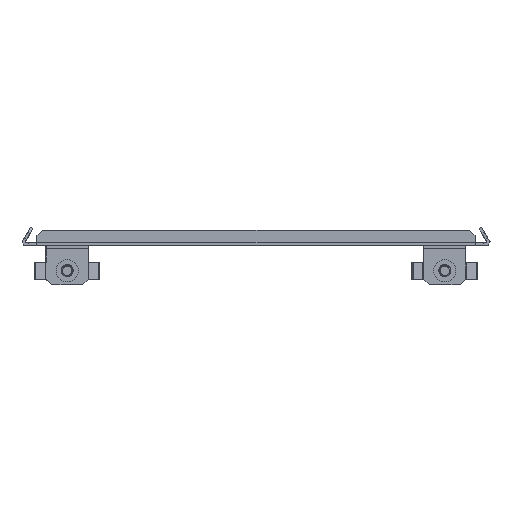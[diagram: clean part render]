
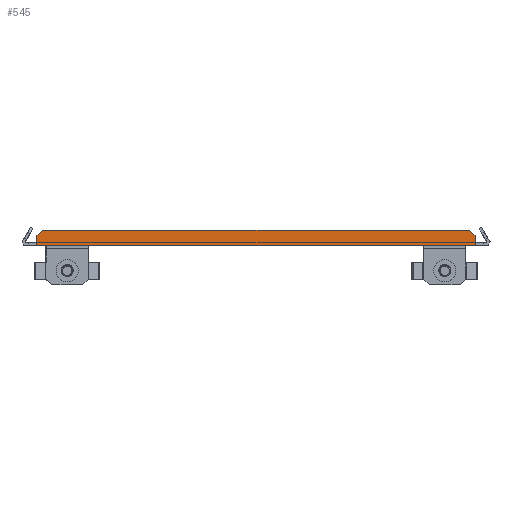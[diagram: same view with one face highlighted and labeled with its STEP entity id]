
A CAD part, left-side view. The second image highlights one B-rep face of the part: STEP entity #545.
In plain terms, the highlighted planar face has unit normal (-1, 0, 0).
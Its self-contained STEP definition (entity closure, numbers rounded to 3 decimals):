
#545 = ADVANCED_FACE ( 'NONE', ( #1273 ), #11214, .F. ) ;
#623 = DIRECTION ( 'NONE',  ( 0., -1., 0. ) ) ;
#1041 = EDGE_CURVE ( 'NONE', #11768, #8251, #25623, .T. ) ;
#1162 = VECTOR ( 'NONE', #27862, 1000. ) ;
#1273 = FACE_OUTER_BOUND ( 'NONE', #14460, .T. ) ;
#1435 = CARTESIAN_POINT ( 'NONE',  ( 1., -50.802, 58.949 ) ) ;
#1896 = ORIENTED_EDGE ( 'NONE', *, *, #21840, .T. ) ;
#2338 = CARTESIAN_POINT ( 'NONE',  ( 1., -0.155, -1.5 ) ) ;
#2427 = CARTESIAN_POINT ( 'NONE',  ( 1., -22.5, -1.5 ) ) ;
#3651 = VECTOR ( 'NONE', #23236, 1000. ) ;
#5661 = CARTESIAN_POINT ( 'NONE',  ( 1., 4.647, 3.5 ) ) ;
#7021 = LINE ( 'NONE', #7497, #16222 ) ;
#7390 = ORIENTED_EDGE ( 'NONE', *, *, #18640, .T. ) ;
#7476 = CARTESIAN_POINT ( 'NONE',  ( 1., -200., -1.5 ) ) ;
#7497 = CARTESIAN_POINT ( 'NONE',  ( 1., 4.647, -1.5 ) ) ;
#7640 = EDGE_CURVE ( 'NONE', #25633, #15743, #10395, .T. ) ;
#7683 = VERTEX_POINT ( 'NONE', #5661 ) ;
#7831 = ORIENTED_EDGE ( 'NONE', *, *, #18454, .T. ) ;
#8251 = VERTEX_POINT ( 'NONE', #21772 ) ;
#8393 = ORIENTED_EDGE ( 'NONE', *, *, #1041, .T. ) ;
#8399 = CARTESIAN_POINT ( 'NONE',  ( 1., -111.25, -1.5 ) ) ;
#8684 = DIRECTION ( 'NONE',  ( 0., 0., 1. ) ) ;
#9803 = EDGE_CURVE ( 'NONE', #15743, #29904, #15354, .T. ) ;
#10395 = LINE ( 'NONE', #14800, #21429 ) ;
#10584 = VECTOR ( 'NONE', #27769, 1000. ) ;
#10889 = DIRECTION ( 'NONE',  ( 1., 0., 0. ) ) ;
#10928 = LINE ( 'NONE', #8399, #29129 ) ;
#11055 = VERTEX_POINT ( 'NONE', #13552 ) ;
#11214 = PLANE ( 'NONE',  #11996 ) ;
#11292 = LINE ( 'NONE', #13648, #3651 ) ;
#11294 = CARTESIAN_POINT ( 'NONE',  ( 1., 4.647, -1.5 ) ) ;
#11768 = VERTEX_POINT ( 'NONE', #13596 ) ;
#11946 = CARTESIAN_POINT ( 'NONE',  ( 1., 1.647, 6.5 ) ) ;
#11996 = AXIS2_PLACEMENT_3D ( 'NONE', #30218, #10889, #8684 ) ;
#12602 = VECTOR ( 'NONE', #13116, 1000. ) ;
#12845 = CARTESIAN_POINT ( 'NONE',  ( 1., -111.25, -1.5 ) ) ;
#13052 = ORIENTED_EDGE ( 'NONE', *, *, #7640, .T. ) ;
#13116 = DIRECTION ( 'NONE',  ( 0., 0., -1. ) ) ;
#13288 = DIRECTION ( 'NONE',  ( 0., -1., 0. ) ) ;
#13552 = CARTESIAN_POINT ( 'NONE',  ( 1., -227.147, -1.5 ) ) ;
#13596 = CARTESIAN_POINT ( 'NONE',  ( 1., -227.147, 3.5 ) ) ;
#13648 = CARTESIAN_POINT ( 'NONE',  ( 1., -111.25, 6.5 ) ) ;
#14136 = EDGE_CURVE ( 'NONE', #7683, #17258, #7021, .T. ) ;
#14460 = EDGE_LOOP ( 'NONE', ( #27355, #7831, #13052, #15068, #29466, #7390, #17465, #8393, #1896, #15597 ) ) ;
#14800 = CARTESIAN_POINT ( 'NONE',  ( 1., -111.25, -1.5 ) ) ;
#15068 = ORIENTED_EDGE ( 'NONE', *, *, #9803, .T. ) ;
#15354 = LINE ( 'NONE', #12845, #10584 ) ;
#15597 = ORIENTED_EDGE ( 'NONE', *, *, #20766, .T. ) ;
#15743 = VERTEX_POINT ( 'NONE', #2427 ) ;
#15782 = LINE ( 'NONE', #30225, #19964 ) ;
#16192 = DIRECTION ( 'NONE',  ( 0., 0.707, 0.707 ) ) ;
#16222 = VECTOR ( 'NONE', #16634, 1000. ) ;
#16634 = DIRECTION ( 'NONE',  ( 0., 0., -1. ) ) ;
#17258 = VERTEX_POINT ( 'NONE', #11294 ) ;
#17465 = ORIENTED_EDGE ( 'NONE', *, *, #19167, .F. ) ;
#18454 = EDGE_CURVE ( 'NONE', #17258, #25633, #29528, .T. ) ;
#18640 = EDGE_CURVE ( 'NONE', #25551, #11055, #10928, .T. ) ;
#19167 = EDGE_CURVE ( 'NONE', #11768, #11055, #28047, .T. ) ;
#19964 = VECTOR ( 'NONE', #27549, 1000. ) ;
#20766 = EDGE_CURVE ( 'NONE', #29314, #7683, #25186, .T. ) ;
#21429 = VECTOR ( 'NONE', #623, 1000. ) ;
#21772 = CARTESIAN_POINT ( 'NONE',  ( 1., -224.147, 6.5 ) ) ;
#21840 = EDGE_CURVE ( 'NONE', #8251, #29314, #11292, .T. ) ;
#23236 = DIRECTION ( 'NONE',  ( 0., 1., 0. ) ) ;
#24098 = VECTOR ( 'NONE', #24801, 1000. ) ;
#24801 = DIRECTION ( 'NONE',  ( 0., -1., 0. ) ) ;
#25186 = LINE ( 'NONE', #1435, #1162 ) ;
#25551 = VERTEX_POINT ( 'NONE', #30201 ) ;
#25623 = LINE ( 'NONE', #25780, #25656 ) ;
#25633 = VERTEX_POINT ( 'NONE', #2338 ) ;
#25656 = VECTOR ( 'NONE', #16192, 1000. ) ;
#25692 = CARTESIAN_POINT ( 'NONE',  ( 1., -227.147, -1.5 ) ) ;
#25780 = CARTESIAN_POINT ( 'NONE',  ( 1., -171.699, 58.949 ) ) ;
#27355 = ORIENTED_EDGE ( 'NONE', *, *, #14136, .T. ) ;
#27522 = EDGE_CURVE ( 'NONE', #29904, #25551, #15782, .T. ) ;
#27549 = DIRECTION ( 'NONE',  ( 0., -1., 0. ) ) ;
#27769 = DIRECTION ( 'NONE',  ( 0., -1., 0. ) ) ;
#27862 = DIRECTION ( 'NONE',  ( 0., 0.707, -0.707 ) ) ;
#28047 = LINE ( 'NONE', #25692, #12602 ) ;
#29129 = VECTOR ( 'NONE', #13288, 1000. ) ;
#29314 = VERTEX_POINT ( 'NONE', #11946 ) ;
#29466 = ORIENTED_EDGE ( 'NONE', *, *, #27522, .T. ) ;
#29528 = LINE ( 'NONE', #29674, #24098 ) ;
#29674 = CARTESIAN_POINT ( 'NONE',  ( 1., -111.25, -1.5 ) ) ;
#29904 = VERTEX_POINT ( 'NONE', #7476 ) ;
#30201 = CARTESIAN_POINT ( 'NONE',  ( 1., -222.345, -1.5 ) ) ;
#30218 = CARTESIAN_POINT ( 'NONE',  ( 1., -111.25, -1.5 ) ) ;
#30225 = CARTESIAN_POINT ( 'NONE',  ( 1., -111.25, -1.5 ) ) ;
